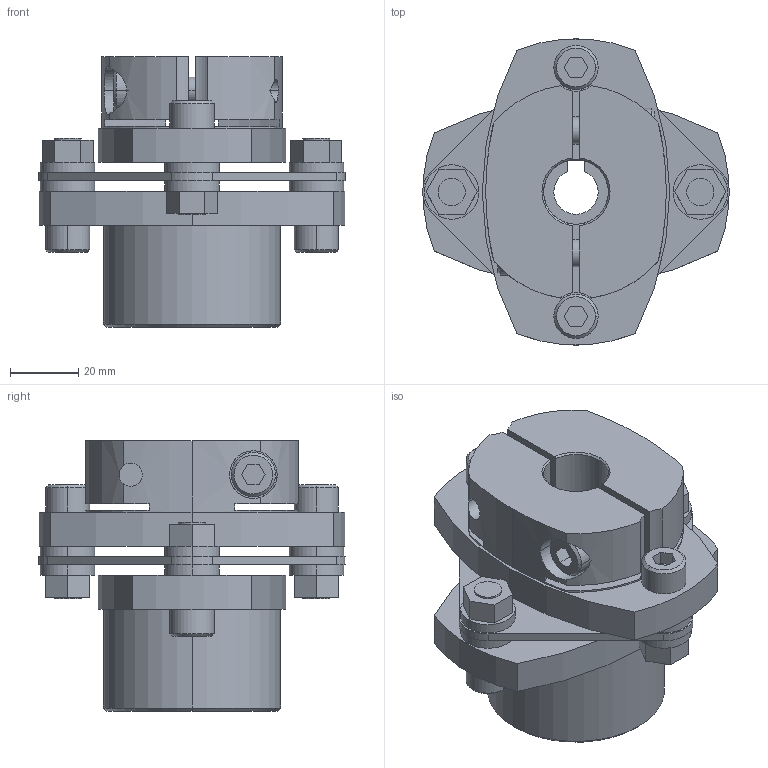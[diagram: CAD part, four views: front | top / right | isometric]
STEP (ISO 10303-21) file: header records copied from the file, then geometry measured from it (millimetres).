
FILE_DESCRIPTION((''),'2;1');
FILE_NAME('LCS-90M-16L亊19B.stp','2011-08-20T16:26:53',(''),(''),'AutoCAD STEP 2000i','AutoCAD 2000i',', , ');
FILE_SCHEMA(('CONFIG_CONTROL_DESIGN'));
Length unit declared in the file: millimetre
Products named in the file (6): LCS-90M-16L×19B; 忣兜1; LC90M-L016; LC90-B019-1; LC90-B019; LCS90-ITA
Assembly tree (5 placements, depth 2):
  LCS-90M-16L×19B
    忣兜1
    LC90M-L016
    LC90-B019-1
    LC90-B019
    LCS90-ITA
Bounding box: 90 x 89.94 x 79.5 mm (x, y, z)
Volume: 200525.5 mm3; surface area: 51181.4 mm2
Topology: 1 solids, 1 shells, 234 faces, 588 edges, 386 vertices
Faces by surface type: plane 115, cylinder 96, cone 23
Entity records: 7529 total; most frequent: CARTESIAN_POINT 1546, DIRECTION 1272, ORIENTED_EDGE 1176, EDGE_CURVE 588, AXIS2_PLACEMENT_3D 466, VERTEX_POINT 386, VECTOR 340, LINE 340
